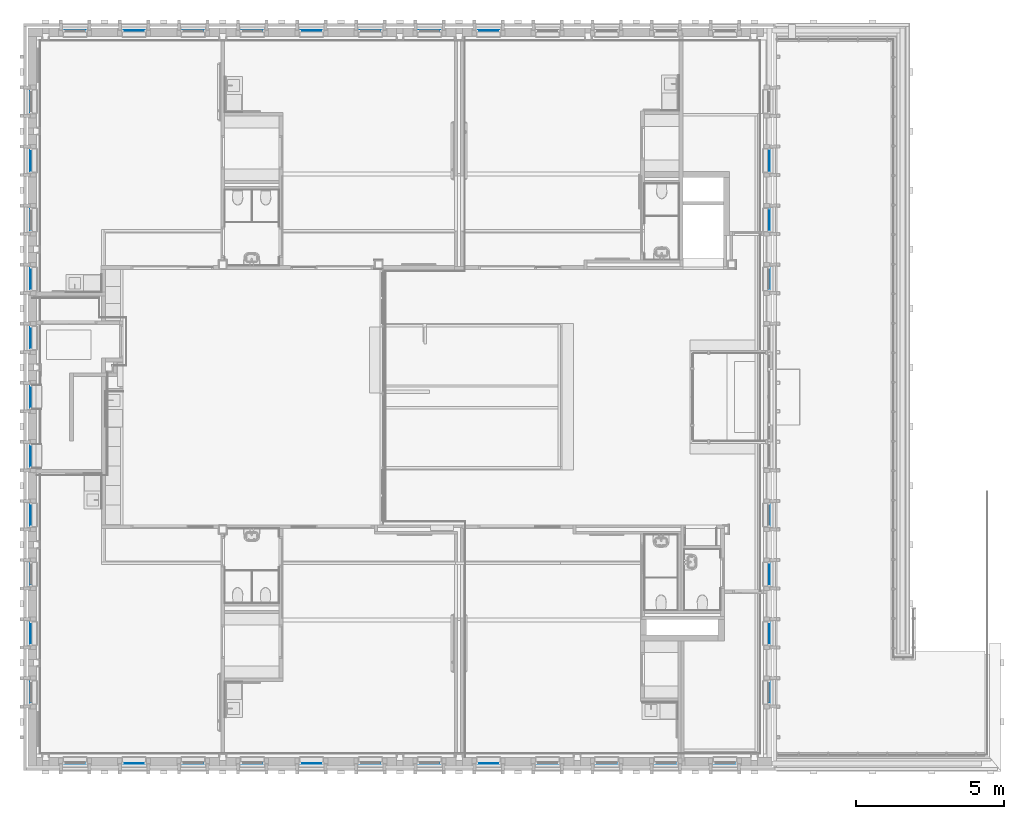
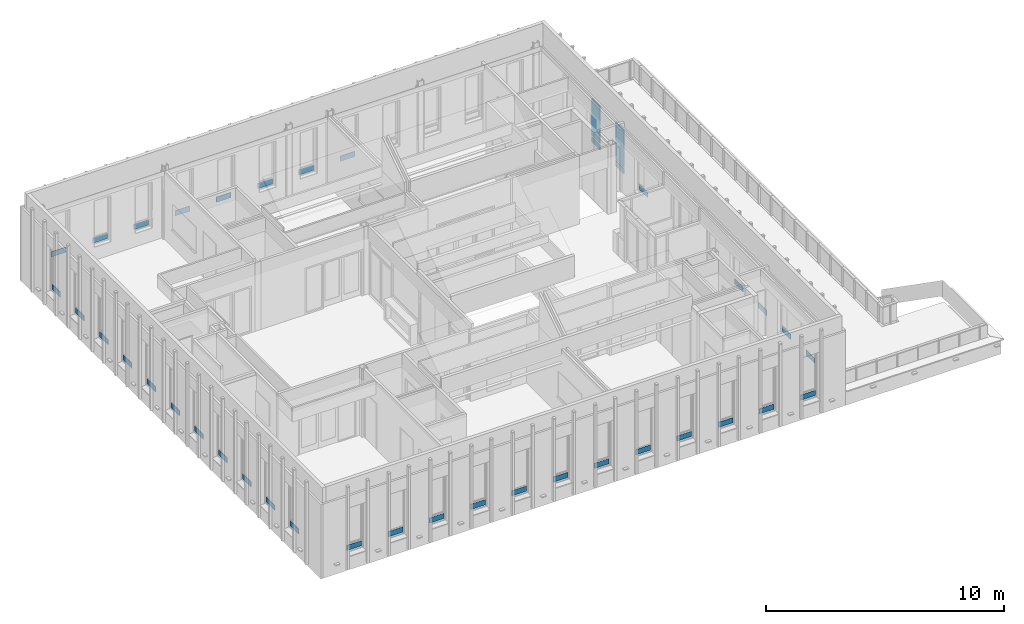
# One storey, part 22 of 118: 40 plates, 38 elements without a shape of their own.
"""IFC2X3 building model written with IfcOpenShell, lengths in millimetres."""

import ifcopenshell
import ifcopenshell.guid

model = None  # the IFC model being written
_history = None  # IfcOwnerHistory: only IFC2X3 demands one
_inside = {}  # id of a spatial element -> (the spatial element, [elements in it])
_under = {}  # id of a project, library or spatial element -> (it, [spatial elements below it])
_declared = {}  # id of a project -> (the project, [libraries it declares])
_typed = {}  # id of a type object -> (the type object, [elements of that type])
_made_of = {}  # id of a material, layer set ... -> (it, [elements and type objects made of it])


def new_model(schema):
    """Start an empty IFC model of exactly this schema.

    Asked for "IFC4X3", IfcOpenShell would pick the latest addendum, in which some entities
    have other attributes; the version numbers below select the first issue.
    IFC2X3 requires an IfcOwnerHistory on every rooted entity: one is made here for all.
    """
    global model, _history
    if schema == "IFC4X3":
        model = ifcopenshell.file(schema_version=(4, 3, 0, 0))
    else:
        model = ifcopenshell.file(schema=schema)
    _inside.clear()
    _under.clear()
    _declared.clear()
    _typed.clear()
    _made_of.clear()
    _history = None
    if model.schema == "IFC2X3":
        org = make("IfcOrganization", Name="unknown")
        user = make(
            "IfcPersonAndOrganization",
            ThePerson=make("IfcPerson", FamilyName="unknown"),
            TheOrganization=org,
        )
        app = make(
            "IfcApplication",
            ApplicationDeveloper=org,
            Version="unknown",
            ApplicationFullName="unknown",
            ApplicationIdentifier="unknown",
        )
        _history = make(
            "IfcOwnerHistory",
            OwningUser=user,
            OwningApplication=app,
            ChangeAction="ADDED",
            CreationDate=0,
        )
    return model


def make(cls, **values):
    """One entity of the class cls with the attributes given. An attribute that is None is left unset."""
    return model.create_entity(
        cls, **{name: value for name, value in values.items() if value is not None}
    )


def entity(cls, *values):
    """Any entity or typed value of the class cls, its attributes in the order of the schema. None: left unset."""
    e = model.create_entity(cls)
    for i, value in enumerate(values):
        if value is not None:
            e[i] = value
    return e


def rooted(cls, **values):
    """An entity with a GlobalId (a new one), such as an element, a storey or a relation."""
    return make(cls, GlobalId=ifcopenshell.guid.new(), OwnerHistory=_history, **values)


def si_unit(unit_type, name, prefix=None):
    """IfcSIUnit, for example si_unit("LENGTHUNIT", "METRE", prefix="MILLI")."""
    return make("IfcSIUnit", UnitType=unit_type, Prefix=prefix, Name=name)


def converted_unit(unit_type, name, factor, base, dimensions=None, offset=None):
    """IfcConversionBasedUnit, such as the inch: factor (a typed value) times the base unit."""
    return make(
        "IfcConversionBasedUnit"
        if offset is None
        else "IfcConversionBasedUnitWithOffset",
        ConversionOffset=offset,
        Dimensions=None
        if dimensions is None
        else entity("IfcDimensionalExponents", *dimensions),
        UnitType=unit_type,
        Name=name,
        ConversionFactor=make(
            "IfcMeasureWithUnit", ValueComponent=factor, UnitComponent=base
        ),
    )


def derived_unit(unit_type, elements):
    """IfcDerivedUnit: a product of units, each with its exponent."""
    return make(
        "IfcDerivedUnit",
        Elements=[
            make("IfcDerivedUnitElement", Unit=unit, Exponent=power)
            for unit, power in elements
        ],
        UnitType=unit_type,
    )


def assignment(units):
    """IfcUnitAssignment: the units of a project."""
    return None if units is None else make("IfcUnitAssignment", Units=units)


def point(xyz):
    """IfcCartesianPoint."""
    return None if xyz is None else make("IfcCartesianPoint", Coordinates=xyz)


def direction(xyz):
    """IfcDirection."""
    return None if xyz is None else make("IfcDirection", DirectionRatios=xyz)


def frame(location, z_axis=None, x_axis=None):
    """IfcAxis2Placement3D, a coordinate frame: its origin and axes. An axis left out is left unset."""
    return make(
        "IfcAxis2Placement3D",
        Location=point(location),
        Axis=direction(z_axis),
        RefDirection=direction(x_axis),
    )


def frame_2d(location, x_axis=None):
    """IfcAxis2Placement2D, a coordinate frame in the plane: its origin and x axis."""
    return make(
        "IfcAxis2Placement2D", Location=point(location), RefDirection=direction(x_axis)
    )


def origin():
    """The frame at (0, 0, 0) with its axes left unset."""
    return frame((0.0, 0.0, 0.0))


def origin_2d_with_axis():
    """The frame at (0, 0) in the plane with the x axis (1, 0) written out."""
    return frame_2d((0.0, 0.0), x_axis=(1.0, 0.0))


def place(relative_to, where):
    """IfcLocalPlacement: puts the frame where relative to a parent placement (None: the world)."""
    return make(
        "IfcLocalPlacement", PlacementRelTo=relative_to, RelativePlacement=where
    )


def context(
    kind, dimensions, precision=None, world=None, true_north=None, identifier=None
):
    """IfcGeometricRepresentationContext, for example the 3D "Model" context."""
    return make(
        "IfcGeometricRepresentationContext",
        ContextIdentifier=identifier,
        ContextType=kind,
        CoordinateSpaceDimension=dimensions,
        Precision=precision,
        WorldCoordinateSystem=world,
        TrueNorth=true_north,
    )


def subcontext(parent, identifier, kind, view, scale=None):
    """IfcGeometricRepresentationSubContext, for example "Body" below "Model"."""
    return make(
        "IfcGeometricRepresentationSubContext",
        ContextIdentifier=identifier,
        ContextType=kind,
        ParentContext=parent,
        TargetScale=scale,
        TargetView=view,
    )


def project(units=None, contexts=None):
    """IfcProject with its units and contexts."""
    return rooted(
        "IfcProject",
        Name="project",
        RepresentationContexts=contexts,
        UnitsInContext=assignment(units),
    )


def spatial(cls, under=None, at=None, **own):
    """A site, building, storey or space (cls), placed at a placement, below another one or the project."""
    s = rooted(cls, ObjectPlacement=at, **own)
    if under is not None:
        _under.setdefault(under.id(), (under, []))[1].append(s)
    return s


def profile(cls, at=None, kind="AREA", **sizes):
    """A parametric profile (cls). Its sizes go by their IFC names, for example OverallWidth=200.0."""
    return make(cls, ProfileType=kind, Position=at, **sizes)


def rectangle(**sizes):
    """IfcRectangleProfileDef."""
    return profile("IfcRectangleProfileDef", **sizes)


def extrude(swept, where, along, depth):
    """IfcExtrudedAreaSolid: the profile swept, set in the frame where, extruded along a direction by depth."""
    return make(
        "IfcExtrudedAreaSolid",
        SweptArea=swept,
        Position=where,
        ExtrudedDirection=direction(along),
        Depth=depth,
    )


def shape(context_of_items, identifier, shape_type, items):
    """IfcShapeRepresentation: the items that make up one representation, for example the "Body"."""
    return make(
        "IfcShapeRepresentation",
        ContextOfItems=context_of_items,
        RepresentationIdentifier=identifier,
        RepresentationType=shape_type,
        Items=items,
    )


def source(mapping_origin, context_of_items, identifier, shape_type, items):
    """IfcRepresentationMap: a shape defined once, which mapped items show again and again."""
    return make(
        "IfcRepresentationMap",
        MappingOrigin=mapping_origin,
        MappedRepresentation=shape(context_of_items, identifier, shape_type, items),
    )


def transform(
    local_origin,
    x_axis=None,
    y_axis=None,
    z_axis=None,
    scale=None,
    scale2=None,
    scale3=None,
    uniform=True,
):
    """IfcCartesianTransformationOperator3D, or its non-uniform kind. x_axis, y_axis, z_axis: its Axis1, 2, 3."""
    if uniform:
        return make(
            "IfcCartesianTransformationOperator3D",
            Axis1=direction(x_axis),
            Axis2=direction(y_axis),
            LocalOrigin=point(local_origin),
            Scale=scale,
            Axis3=direction(z_axis),
        )
    return make(
        "IfcCartesianTransformationOperator3DnonUniform",
        Axis1=direction(x_axis),
        Axis2=direction(y_axis),
        LocalOrigin=point(local_origin),
        Scale=scale,
        Axis3=direction(z_axis),
        Scale2=scale2,
        Scale3=scale3,
    )


def mapped(mapping_source, mapping_target):
    """IfcMappedItem: shows the shape of a source again, moved by a transform."""
    return make(
        "IfcMappedItem", MappingSource=mapping_source, MappingTarget=mapping_target
    )


def material(Name=None, Category=None):
    """IfcMaterial."""
    return make("IfcMaterial", Name=Name, Category=Category)


def made_of(thing, what):
    """Note that an element or type object is made of a material, layer set ...; save() writes the relation."""
    if what is not None:
        _made_of.setdefault(what.id(), (what, []))[1].append(thing)
    return thing


def type_object(cls, material=None, **own):
    """A type object (cls), such as IfcWallType, which elements share."""
    return made_of(rooted(cls, **own), material)


def type_shapes(of_type, sources):
    """Give a type object the sources (RepresentationMaps) that its elements show as mapped items."""
    of_type.RepresentationMaps = sources


def element(
    cls,
    number,
    at=None,
    inside=None,
    cuts=None,
    type_object=None,
    material=None,
    context=None,
    identifier="Body",
    shape_type=None,
    held_by="IfcProductDefinitionShape",
    body=None,
    shapes=None,
    **own,
):
    """One element of the class cls, such as IfcWall. Its Tag is "e" and its number.

    at: its placement. inside: the storey or other place that contains it. cuts: it is an
    opening in that element (IfcRelVoidsElement). A single representation is given by context,
    identifier, shape_type and body (its items); several are given by shapes. held_by: the class
    of the entity that holds the representations. save() writes the other relations.
    """
    e = rooted(cls, Tag="e%d" % number, ObjectPlacement=at, **own)
    if body is not None:
        shapes = [shape(context, identifier, shape_type, body)]
    if shapes is not None:
        e.Representation = make(held_by, Representations=shapes)
    if inside is not None:
        _inside.setdefault(inside.id(), (inside, []))[1].append(e)
    if cuts is not None:
        rooted(
            "IfcRelVoidsElement", RelatingBuildingElement=cuts, RelatedOpeningElement=e
        )
    if type_object is not None:
        _typed.setdefault(type_object.id(), (type_object, []))[1].append(e)
    return made_of(e, material)


def aggregate(whole, parts):
    """IfcRelAggregates: a whole, such as a stair, and the parts it consists of."""
    return rooted("IfcRelAggregates", RelatingObject=whole, RelatedObjects=parts)


def save(model, path):
    """Write the relations noted so far, then the file.

    IfcRelAggregates (storeys below a building ...), IfcRelContainedInSpatialStructure (elements
    in a storey), IfcRelDefinesByType, IfcRelAssociatesMaterial and IfcRelDeclares: one each for
    every whole, place, type object, material and project.
    """
    for whole, parts in _under.values():
        aggregate(whole, parts)
    for where, things in _inside.values():
        rooted(
            "IfcRelContainedInSpatialStructure",
            RelatedElements=things,
            RelatingStructure=where,
        )
    for kind, things in _typed.values():
        rooted("IfcRelDefinesByType", RelatedObjects=things, RelatingType=kind)
    for what, things in _made_of.values():
        rooted("IfcRelAssociatesMaterial", RelatedObjects=things, RelatingMaterial=what)
    for by, libraries in _declared.values():
        rooted("IfcRelDeclares", RelatingContext=by, RelatedDefinitions=libraries)
    model.write(path)


model = new_model("IFC2X3")

# Units and contexts
model_context = context("Model", 3, precision=0.01, world=origin(), true_north=direction((6.123031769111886e-17, 1.0)))
plan_context = context("Plan", 3, precision=0.01, world=origin(), true_north=direction((6.123031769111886e-17, 1.0)))
body_context = subcontext(model_context, "Body", "Model", "MODEL_VIEW")
ifc_project = project(units=[si_unit("LENGTHUNIT", "METRE", prefix="MILLI"), si_unit("AREAUNIT", "SQUARE_METRE"), si_unit("VOLUMEUNIT", "CUBIC_METRE"), converted_unit("PLANEANGLEUNIT", "DEGREE", entity("IfcRatioMeasure", 0.017453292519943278), si_unit("PLANEANGLEUNIT", "RADIAN"), dimensions=[0, 0, 0, 0, 0, 0, 0]), si_unit("MASSUNIT", "GRAM", prefix="KILO"), derived_unit("MASSDENSITYUNIT", [(si_unit("MASSUNIT", "GRAM", prefix="KILO"), 1), (si_unit("LENGTHUNIT", "METRE"), -3)]), derived_unit("IONCONCENTRATIONUNIT", [(si_unit("MASSUNIT", "GRAM", prefix="KILO"), 1), (si_unit("LENGTHUNIT", "METRE"), -3)]), derived_unit("MOMENTOFINERTIAUNIT", [(si_unit("LENGTHUNIT", "METRE"), 4)]), si_unit("TIMEUNIT", "SECOND"), si_unit("FREQUENCYUNIT", "HERTZ"), si_unit("THERMODYNAMICTEMPERATUREUNIT", "DEGREE_CELSIUS"), derived_unit("THERMALTRANSMITTANCEUNIT", [(si_unit("MASSUNIT", "GRAM", prefix="KILO"), 1), (si_unit("THERMODYNAMICTEMPERATUREUNIT", "KELVIN"), -1), (si_unit("TIMEUNIT", "SECOND"), -3)]), derived_unit("THERMALCONDUCTANCEUNIT", [(si_unit("MASSUNIT", "GRAM", prefix="KILO"), 1), (si_unit("THERMODYNAMICTEMPERATUREUNIT", "KELVIN"), -1), (si_unit("TIMEUNIT", "SECOND"), -3), (si_unit("LENGTHUNIT", "METRE"), 1)]), derived_unit("VOLUMETRICFLOWRATEUNIT", [(si_unit("LENGTHUNIT", "METRE"), 3), (si_unit("TIMEUNIT", "SECOND"), -1)]), derived_unit("MASSFLOWRATEUNIT", [(si_unit("MASSUNIT", "GRAM", prefix="KILO"), 1), (si_unit("TIMEUNIT", "SECOND"), -1)]), derived_unit("ROTATIONALFREQUENCYUNIT", [(si_unit("TIMEUNIT", "SECOND"), -1)]), si_unit("ELECTRICCURRENTUNIT", "AMPERE"), si_unit("ELECTRICVOLTAGEUNIT", "VOLT"), si_unit("POWERUNIT", "WATT"), si_unit("FORCEUNIT", "NEWTON", prefix="KILO"), si_unit("ILLUMINANCEUNIT", "LUX"), si_unit("LUMINOUSFLUXUNIT", "LUMEN"), si_unit("LUMINOUSINTENSITYUNIT", "CANDELA"), derived_unit("USERDEFINED", [(si_unit("MASSUNIT", "GRAM", prefix="KILO"), -1), (si_unit("LENGTHUNIT", "METRE"), -2), (si_unit("TIMEUNIT", "SECOND"), 3), (si_unit("LUMINOUSFLUXUNIT", "LUMEN"), 1)]), derived_unit("USERDEFINED", [(si_unit("MASSUNIT", "GRAM", prefix="KILO"), 1), (si_unit("TIMEUNIT", "SECOND"), -3), (si_unit("LENGTHUNIT", "METRE"), 3), (si_unit("ELECTRICCURRENTUNIT", "AMPERE"), -2)]), derived_unit("SOUNDPOWERUNIT", [(si_unit("MASSUNIT", "GRAM", prefix="KILO"), 1), (si_unit("TIMEUNIT", "SECOND"), -3), (si_unit("LENGTHUNIT", "METRE"), 2)]), derived_unit("SOUNDPRESSUREUNIT", [(si_unit("MASSUNIT", "GRAM", prefix="KILO"), 1), (si_unit("LENGTHUNIT", "METRE"), -1), (si_unit("TIMEUNIT", "SECOND"), -2)]), derived_unit("LINEARVELOCITYUNIT", [(si_unit("LENGTHUNIT", "METRE"), 1), (si_unit("TIMEUNIT", "SECOND"), -1)]), si_unit("PRESSUREUNIT", "PASCAL"), derived_unit("USERDEFINED", [(si_unit("MASSUNIT", "GRAM", prefix="KILO"), 1), (si_unit("LENGTHUNIT", "METRE"), -2), (si_unit("TIMEUNIT", "SECOND"), -2)]), derived_unit("LINEARFORCEUNIT", [(si_unit("MASSUNIT", "GRAM", prefix="KILO"), 1), (si_unit("TIMEUNIT", "SECOND"), -2)]), derived_unit("PLANARFORCEUNIT", [(si_unit("MASSUNIT", "GRAM", prefix="KILO"), 1), (si_unit("LENGTHUNIT", "METRE"), -1), (si_unit("TIMEUNIT", "SECOND"), -2)]), derived_unit("SPECIFICHEATCAPACITYUNIT", [(si_unit("THERMODYNAMICTEMPERATUREUNIT", "KELVIN"), -1), (si_unit("LENGTHUNIT", "METRE"), 2), (si_unit("TIMEUNIT", "SECOND"), -2)]), derived_unit("HEATINGVALUEUNIT", [(si_unit("LENGTHUNIT", "METRE"), 2), (si_unit("TIMEUNIT", "SECOND"), -2)]), derived_unit("VAPORPERMEABILITYUNIT", [(si_unit("LENGTHUNIT", "METRE"), -1), (si_unit("TIMEUNIT", "SECOND"), 1)]), derived_unit("DYNAMICVISCOSITYUNIT", [(si_unit("MASSUNIT", "GRAM", prefix="KILO"), 1), (si_unit("TIMEUNIT", "SECOND"), -1), (si_unit("LENGTHUNIT", "METRE"), -1)]), derived_unit("THERMALEXPANSIONCOEFFICIENTUNIT", [(si_unit("THERMODYNAMICTEMPERATUREUNIT", "KELVIN"), -1)]), derived_unit("MODULUSOFELASTICITYUNIT", [(si_unit("MASSUNIT", "GRAM", prefix="KILO"), 1), (si_unit("LENGTHUNIT", "METRE"), -1), (si_unit("TIMEUNIT", "SECOND"), -2)]), derived_unit("ISOTHERMALMOISTURECAPACITYUNIT", [(si_unit("LENGTHUNIT", "METRE"), 3), (si_unit("MASSUNIT", "GRAM", prefix="KILO"), -1)]), derived_unit("MOISTUREDIFFUSIVITYUNIT", [(si_unit("TIMEUNIT", "SECOND"), -1), (si_unit("LENGTHUNIT", "METRE"), 2)])], contexts=[model_context, plan_context])

# Site, building, storey
site_placement = place(None, origin())
site = spatial("IfcSite", under=ifc_project, at=site_placement, Name="Locatie", CompositionType="ELEMENT")
building_placement = place(site_placement, origin())
building = spatial("IfcBuilding", under=site, at=building_placement, Name="Bouwwerk", CompositionType="ELEMENT")
storey_placement = place(building_placement, frame((0.0, 0.0, 7800.0)))
storey = spatial("IfcBuildingStorey", under=building, at=storey_placement, Name="02 tweede verdieping", CompositionType="ELEMENT", Elevation=7800.000000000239)

# Curtain wall, plate
curtain_wall_type = type_object("IfcCurtainWallType", Name="Curtain Wall:NLRS_21_CW_Ontwerpkozijn_aluminium_RT72", PredefinedType="NOTDEFINED")
curtain_wall_1_placement = place(storey_placement, frame((0.0, 0.0, -7800.0)))
curtain_wall_1 = element("IfcCurtainWall", 1, at=curtain_wall_1_placement, inside=storey, type_object=curtain_wall_type, Name="Curtain Wall:NLRS_21_CW_Ontwerpkozijn_aluminium_RT72", ObjectType="Curtain Wall:NLRS_21_CW_Ontwerpkozijn_aluminium_RT72")
ifc_material = material(Name="ISR_Glas")
plate_type_1 = type_object("IfcPlateType", Name="System Panel:RT72_glas", PredefinedType="CURTAIN_PANEL", material=ifc_material)
shared_shape_1 = source(origin(), body_context, "Body", "SweptSolid", [
    extrude(rectangle(XDim=23.0, YDim=713.999999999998, at=origin_2d_with_axis()), frame((0.0, 53.499999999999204, 0.0), z_axis=(0.0, 0.0, 1.0), x_axis=(0.0, 1.0, 0.0)), (0.0, 0.0, 1.0), 267.000000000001),
])
type_shapes(plate_type_1, [shared_shape_1])
plate_1_placement = place(curtain_wall_1_placement, frame((25300.0, 9847.0, 8541.0), z_axis=(0.0, 0.0, 1.0), x_axis=(-1.0, 0.0, 0.0)))
plate_1 = element("IfcPlate", 2, at=plate_1_placement, type_object=plate_type_1, material=ifc_material, Name="System Panel:RT72_glas", ObjectType="System Panel:RT72_glas", context=body_context, shape_type="MappedRepresentation", body=[
    mapped(shared_shape_1, transform((0.0, 0.0, 0.0), scale=1.0)),
])
aggregate(curtain_wall_1, [plate_1])

curtain_wall_2_placement = place(storey_placement, frame((0.0, 0.0, -7800.0)))
curtain_wall_2 = element("IfcCurtainWall", 3, at=curtain_wall_2_placement, inside=storey, type_object=curtain_wall_type, Name="Curtain Wall:NLRS_21_CW_Ontwerpkozijn_aluminium_RT72", ObjectType="Curtain Wall:NLRS_21_CW_Ontwerpkozijn_aluminium_RT72")
plate_2_placement = place(curtain_wall_2_placement, frame((19300.0, 9847.0, 8541.0), z_axis=(0.0, 0.0, 1.0), x_axis=(-1.0, 0.0, 0.0)))
plate_2 = element("IfcPlate", 4, at=plate_2_placement, type_object=plate_type_1, material=ifc_material, Name="System Panel:RT72_glas", ObjectType="System Panel:RT72_glas", context=body_context, shape_type="MappedRepresentation", body=[
    mapped(shared_shape_1, transform((0.0, 0.0, 0.0), scale=1.0)),
])
aggregate(curtain_wall_2, [plate_2])

curtain_wall_3_placement = place(storey_placement, frame((0.0, 0.0, -7800.0)))
curtain_wall_3 = element("IfcCurtainWall", 5, at=curtain_wall_3_placement, inside=storey, type_object=curtain_wall_type, Name="Curtain Wall:NLRS_21_CW_Ontwerpkozijn_aluminium_RT72", ObjectType="Curtain Wall:NLRS_21_CW_Ontwerpkozijn_aluminium_RT72")
plate_3_placement = place(curtain_wall_3_placement, frame((13300.0, 9847.0, 8541.0), z_axis=(0.0, 0.0, 1.0), x_axis=(-1.0, 0.0, 0.0)))
plate_3 = element("IfcPlate", 6, at=plate_3_placement, type_object=plate_type_1, material=ifc_material, Name="System Panel:RT72_glas", ObjectType="System Panel:RT72_glas", context=body_context, shape_type="MappedRepresentation", body=[
    mapped(shared_shape_1, transform((0.0, 0.0, 0.0), scale=1.0)),
])
aggregate(curtain_wall_3, [plate_3])

curtain_wall_4_placement = place(storey_placement, frame((0.0, 0.0, -7800.0)))
curtain_wall_4 = element("IfcCurtainWall", 7, at=curtain_wall_4_placement, inside=storey, type_object=curtain_wall_type, Name="Curtain Wall:NLRS_21_CW_Ontwerpkozijn_aluminium_RT72", ObjectType="Curtain Wall:NLRS_21_CW_Ontwerpkozijn_aluminium_RT72")
plate_4_placement = place(curtain_wall_4_placement, frame((34753.0, 14200.0, 8541.0), z_axis=(0.0, 0.0, 1.0), x_axis=(0.0, -1.0, 0.0)))
plate_4 = element("IfcPlate", 8, at=plate_4_placement, type_object=plate_type_1, material=ifc_material, Name="System Panel:RT72_glas", ObjectType="System Panel:RT72_glas", context=body_context, shape_type="MappedRepresentation", body=[
    mapped(shared_shape_1, transform((0.0, 0.0, 0.0), scale=1.0)),
])
aggregate(curtain_wall_4, [plate_4])

curtain_wall_5_placement = place(storey_placement, frame((0.0, 0.0, -7800.0)))
curtain_wall_5 = element("IfcCurtainWall", 9, at=curtain_wall_5_placement, inside=storey, type_object=curtain_wall_type, Name="Curtain Wall:NLRS_21_CW_Ontwerpkozijn_aluminium_RT72", ObjectType="Curtain Wall:NLRS_21_CW_Ontwerpkozijn_aluminium_RT72")
plate_5_placement = place(curtain_wall_5_placement, frame((34753.0, 16200.0, 8541.0), z_axis=(0.0, 0.0, 1.0), x_axis=(0.0, -1.0, 0.0)))
plate_5 = element("IfcPlate", 10, at=plate_5_placement, type_object=plate_type_1, material=ifc_material, Name="System Panel:RT72_glas", ObjectType="System Panel:RT72_glas", context=body_context, shape_type="MappedRepresentation", body=[
    mapped(shared_shape_1, transform((0.0, 0.0, 0.0), scale=1.0)),
])
aggregate(curtain_wall_5, [plate_5])

curtain_wall_6_placement = place(storey_placement, frame((0.0, 0.0, -7800.0)))
curtain_wall_6 = element("IfcCurtainWall", 11, at=curtain_wall_6_placement, inside=storey, type_object=curtain_wall_type, Name="Curtain Wall:NLRS_21_CW_Ontwerpkozijn_aluminium_RT72", ObjectType="Curtain Wall:NLRS_21_CW_Ontwerpkozijn_aluminium_RT72")
plate_6_placement = place(curtain_wall_6_placement, frame((34753.0, 28200.0, 8541.0), z_axis=(0.0, 0.0, 1.0), x_axis=(0.0, -1.0, 0.0)))
plate_6 = element("IfcPlate", 12, at=plate_6_placement, type_object=plate_type_1, material=ifc_material, Name="System Panel:RT72_glas", ObjectType="System Panel:RT72_glas", context=body_context, shape_type="MappedRepresentation", body=[
    mapped(shared_shape_1, transform((0.0, 0.0, 0.0), scale=1.0)),
])

curtain_wall_7_placement = place(storey_placement, frame((0.0, 0.0, -7800.0)))
curtain_wall_7 = element("IfcCurtainWall", 13, at=curtain_wall_7_placement, inside=storey, type_object=curtain_wall_type, Name="Curtain Wall:NLRS_21_CW_Ontwerpkozijn_aluminium_RT72", ObjectType="Curtain Wall:NLRS_21_CW_Ontwerpkozijn_aluminium_RT72")
plate_7_placement = place(curtain_wall_7_placement, frame((34753.0, 30200.0, 8541.0), z_axis=(0.0, 0.0, 1.0), x_axis=(0.0, -1.0, 0.0)))
plate_7 = element("IfcPlate", 14, at=plate_7_placement, type_object=plate_type_1, material=ifc_material, Name="System Panel:RT72_glas", ObjectType="System Panel:RT72_glas", context=body_context, shape_type="MappedRepresentation", body=[
    mapped(shared_shape_1, transform((0.0, 0.0, 0.0), scale=1.0)),
])

curtain_wall_8_placement = place(storey_placement, frame((0.0, 0.0, -7800.0)))
curtain_wall_8 = element("IfcCurtainWall", 15, at=curtain_wall_8_placement, inside=storey, type_object=curtain_wall_type, Name="Curtain Wall:NLRS_21_CW_Ontwerpkozijn_aluminium_RT72", ObjectType="Curtain Wall:NLRS_21_CW_Ontwerpkozijn_aluminium_RT72")
plate_8_placement = place(curtain_wall_8_placement, frame((9847.0, 14200.0, 8541.0), z_axis=(0.0, 0.0, 1.0), x_axis=(0.0, 1.0, 0.0)))
plate_8 = element("IfcPlate", 16, at=plate_8_placement, type_object=plate_type_1, material=ifc_material, Name="System Panel:RT72_glas", ObjectType="System Panel:RT72_glas", context=body_context, shape_type="MappedRepresentation", body=[
    mapped(shared_shape_1, transform((0.0, 0.0, 0.0), scale=1.0)),
])
aggregate(curtain_wall_8, [plate_8])

curtain_wall_9_placement = place(storey_placement, frame((0.0, 0.0, -7800.0)))
curtain_wall_9 = element("IfcCurtainWall", 17, at=curtain_wall_9_placement, inside=storey, type_object=curtain_wall_type, Name="Curtain Wall:NLRS_21_CW_Ontwerpkozijn_aluminium_RT72", ObjectType="Curtain Wall:NLRS_21_CW_Ontwerpkozijn_aluminium_RT72")
plate_9_placement = place(curtain_wall_9_placement, frame((9847.0, 18200.0, 8541.0), z_axis=(0.0, 0.0, 1.0), x_axis=(0.0, 1.0, 0.0)))
plate_9 = element("IfcPlate", 18, at=plate_9_placement, type_object=plate_type_1, material=ifc_material, Name="System Panel:RT72_glas", ObjectType="System Panel:RT72_glas", context=body_context, shape_type="MappedRepresentation", body=[
    mapped(shared_shape_1, transform((0.0, 0.0, 0.0), scale=1.0)),
])
aggregate(curtain_wall_9, [plate_9])

curtain_wall_10_placement = place(storey_placement, frame((0.0, 0.0, -7800.0)))
curtain_wall_10 = element("IfcCurtainWall", 19, at=curtain_wall_10_placement, inside=storey, type_object=curtain_wall_type, Name="Curtain Wall:NLRS_21_CW_Ontwerpkozijn_aluminium_RT72", ObjectType="Curtain Wall:NLRS_21_CW_Ontwerpkozijn_aluminium_RT72")
plate_10_placement = place(curtain_wall_10_placement, frame((9847.0, 20200.0, 8541.0), z_axis=(0.0, 0.0, 1.0), x_axis=(0.0, 1.0, 0.0)))
plate_10 = element("IfcPlate", 20, at=plate_10_placement, type_object=plate_type_1, material=ifc_material, Name="System Panel:RT72_glas", ObjectType="System Panel:RT72_glas", context=body_context, shape_type="MappedRepresentation", body=[
    mapped(shared_shape_1, transform((0.0, 0.0, 0.0), scale=1.0)),
])
aggregate(curtain_wall_10, [plate_10])

curtain_wall_11_placement = place(storey_placement, frame((0.0, 0.0, -7800.0)))
curtain_wall_11 = element("IfcCurtainWall", 21, at=curtain_wall_11_placement, inside=storey, type_object=curtain_wall_type, Name="Curtain Wall:NLRS_21_CW_Ontwerpkozijn_aluminium_RT72", ObjectType="Curtain Wall:NLRS_21_CW_Ontwerpkozijn_aluminium_RT72")
plate_11_placement = place(curtain_wall_11_placement, frame((9847.0, 22200.0, 8541.0), z_axis=(0.0, 0.0, 1.0), x_axis=(0.0, 1.0, 0.0)))
plate_11 = element("IfcPlate", 22, at=plate_11_placement, type_object=plate_type_1, material=ifc_material, Name="System Panel:RT72_glas", ObjectType="System Panel:RT72_glas", context=body_context, shape_type="MappedRepresentation", body=[
    mapped(shared_shape_1, transform((0.0, 0.0, 0.0), scale=1.0)),
])
aggregate(curtain_wall_11, [plate_11])

curtain_wall_12_placement = place(storey_placement, frame((0.0, 0.0, -7800.0)))
curtain_wall_12 = element("IfcCurtainWall", 23, at=curtain_wall_12_placement, inside=storey, type_object=curtain_wall_type, Name="Curtain Wall:NLRS_21_CW_Ontwerpkozijn_aluminium_RT72", ObjectType="Curtain Wall:NLRS_21_CW_Ontwerpkozijn_aluminium_RT72")
plate_12_placement = place(curtain_wall_12_placement, frame((9847.0, 24200.0, 8541.0), z_axis=(0.0, 0.0, 1.0), x_axis=(0.0, 1.0, 0.0)))
plate_12 = element("IfcPlate", 24, at=plate_12_placement, type_object=plate_type_1, material=ifc_material, Name="System Panel:RT72_glas", ObjectType="System Panel:RT72_glas", context=body_context, shape_type="MappedRepresentation", body=[
    mapped(shared_shape_1, transform((0.0, 0.0, 0.0), scale=1.0)),
])
aggregate(curtain_wall_12, [plate_12])

curtain_wall_13_placement = place(storey_placement, frame((0.0, 0.0, -7800.0)))
curtain_wall_13 = element("IfcCurtainWall", 25, at=curtain_wall_13_placement, inside=storey, type_object=curtain_wall_type, Name="Curtain Wall:NLRS_21_CW_Ontwerpkozijn_aluminium_RT72", ObjectType="Curtain Wall:NLRS_21_CW_Ontwerpkozijn_aluminium_RT72")
plate_13_placement = place(curtain_wall_13_placement, frame((9847.0, 26200.0, 8541.0), z_axis=(0.0, 0.0, 1.0), x_axis=(0.0, 1.0, 0.0)))
plate_13 = element("IfcPlate", 26, at=plate_13_placement, type_object=plate_type_1, material=ifc_material, Name="System Panel:RT72_glas", ObjectType="System Panel:RT72_glas", context=body_context, shape_type="MappedRepresentation", body=[
    mapped(shared_shape_1, transform((0.0, 0.0, 0.0), scale=1.0)),
])
aggregate(curtain_wall_13, [plate_13])

curtain_wall_14_placement = place(storey_placement, frame((0.0, 0.0, -7800.0)))
curtain_wall_14 = element("IfcCurtainWall", 27, at=curtain_wall_14_placement, inside=storey, type_object=curtain_wall_type, Name="Curtain Wall:NLRS_21_CW_Ontwerpkozijn_aluminium_RT72", ObjectType="Curtain Wall:NLRS_21_CW_Ontwerpkozijn_aluminium_RT72")
plate_14_placement = place(curtain_wall_14_placement, frame((9847.0, 30200.0, 8541.0), z_axis=(0.0, 0.0, 1.0), x_axis=(0.0, 1.0, 0.0)))
plate_14 = element("IfcPlate", 28, at=plate_14_placement, type_object=plate_type_1, material=ifc_material, Name="System Panel:RT72_glas", ObjectType="System Panel:RT72_glas", context=body_context, shape_type="MappedRepresentation", body=[
    mapped(shared_shape_1, transform((0.0, 0.0, 0.0), scale=1.0)),
])
aggregate(curtain_wall_14, [plate_14])

curtain_wall_15_placement = place(storey_placement, frame((0.0, 0.0, -7800.0)))
curtain_wall_15 = element("IfcCurtainWall", 29, at=curtain_wall_15_placement, inside=storey, type_object=curtain_wall_type, Name="Curtain Wall:NLRS_21_CW_Ontwerpkozijn_aluminium_RT72", ObjectType="Curtain Wall:NLRS_21_CW_Ontwerpkozijn_aluminium_RT72")
plate_15_placement = place(curtain_wall_15_placement, frame((25300.0, 34553.0, 8541.0)))
plate_15 = element("IfcPlate", 30, at=plate_15_placement, type_object=plate_type_1, material=ifc_material, Name="System Panel:RT72_glas", ObjectType="System Panel:RT72_glas", context=body_context, shape_type="MappedRepresentation", body=[
    mapped(shared_shape_1, transform((0.0, 0.0, 0.0), scale=1.0)),
])
aggregate(curtain_wall_15, [plate_15])

curtain_wall_16_placement = place(storey_placement, frame((0.0, 0.0, -7800.0)))
curtain_wall_16 = element("IfcCurtainWall", 31, at=curtain_wall_16_placement, inside=storey, type_object=curtain_wall_type, Name="Curtain Wall:NLRS_21_CW_Ontwerpkozijn_aluminium_RT72", ObjectType="Curtain Wall:NLRS_21_CW_Ontwerpkozijn_aluminium_RT72")
plate_16_placement = place(curtain_wall_16_placement, frame((19300.0, 34553.0, 8541.0)))
plate_16 = element("IfcPlate", 32, at=plate_16_placement, type_object=plate_type_1, material=ifc_material, Name="System Panel:RT72_glas", ObjectType="System Panel:RT72_glas", context=body_context, shape_type="MappedRepresentation", body=[
    mapped(shared_shape_1, transform((0.0, 0.0, 0.0), scale=1.0)),
])
aggregate(curtain_wall_16, [plate_16])

curtain_wall_17_placement = place(storey_placement, frame((0.0, 0.0, -7800.0)))
curtain_wall_17 = element("IfcCurtainWall", 33, at=curtain_wall_17_placement, inside=storey, type_object=curtain_wall_type, Name="Curtain Wall:NLRS_21_CW_Ontwerpkozijn_aluminium_RT72", ObjectType="Curtain Wall:NLRS_21_CW_Ontwerpkozijn_aluminium_RT72")
plate_17_placement = place(curtain_wall_17_placement, frame((13300.0, 34553.0, 8541.0)))
plate_17 = element("IfcPlate", 34, at=plate_17_placement, type_object=plate_type_1, material=ifc_material, Name="System Panel:RT72_glas", ObjectType="System Panel:RT72_glas", context=body_context, shape_type="MappedRepresentation", body=[
    mapped(shared_shape_1, transform((0.0, 0.0, 0.0), scale=1.0)),
])
aggregate(curtain_wall_17, [plate_17])

curtain_wall_18_placement = place(storey_placement, frame((0.0, 0.0, -7800.0)))
curtain_wall_18 = element("IfcCurtainWall", 35, at=curtain_wall_18_placement, inside=storey, type_object=curtain_wall_type, Name="Curtain Wall:NLRS_21_CW_Ontwerpkozijn_aluminium_RT72", ObjectType="Curtain Wall:NLRS_21_CW_Ontwerpkozijn_aluminium_RT72")
plate_18_placement = place(curtain_wall_18_placement, frame((11300.0, 9847.0, 8541.0), z_axis=(0.0, 0.0, 1.0), x_axis=(-1.0, 0.0, 0.0)))
plate_18 = element("IfcPlate", 36, at=plate_18_placement, type_object=plate_type_1, material=ifc_material, Name="System Panel:RT72_glas", ObjectType="System Panel:RT72_glas", context=body_context, shape_type="MappedRepresentation", body=[
    mapped(shared_shape_1, transform((0.0, 0.0, 0.0), scale=1.0)),
])
aggregate(curtain_wall_18, [plate_18])

curtain_wall_19_placement = place(storey_placement, frame((0.0, 0.0, -7800.0)))
curtain_wall_19 = element("IfcCurtainWall", 37, at=curtain_wall_19_placement, inside=storey, type_object=curtain_wall_type, Name="Curtain Wall:NLRS_21_CW_Ontwerpkozijn_aluminium_RT72", ObjectType="Curtain Wall:NLRS_21_CW_Ontwerpkozijn_aluminium_RT72")
plate_19_placement = place(curtain_wall_19_placement, frame((23300.0, 9847.0, 8541.0), z_axis=(0.0, 0.0, 1.0), x_axis=(-1.0, 0.0, 0.0)))
plate_19 = element("IfcPlate", 38, at=plate_19_placement, type_object=plate_type_1, material=ifc_material, Name="System Panel:RT72_glas", ObjectType="System Panel:RT72_glas", context=body_context, shape_type="MappedRepresentation", body=[
    mapped(shared_shape_1, transform((0.0, 0.0, 0.0), scale=1.0)),
])
aggregate(curtain_wall_19, [plate_19])

curtain_wall_20_placement = place(storey_placement, frame((0.0, 0.0, -7800.0)))
curtain_wall_20 = element("IfcCurtainWall", 39, at=curtain_wall_20_placement, inside=storey, type_object=curtain_wall_type, Name="Curtain Wall:NLRS_21_CW_Ontwerpkozijn_aluminium_RT72", ObjectType="Curtain Wall:NLRS_21_CW_Ontwerpkozijn_aluminium_RT72")
plate_20_placement = place(curtain_wall_20_placement, frame((27300.0, 9847.0, 8541.0), z_axis=(0.0, 0.0, 1.0), x_axis=(-1.0, 0.0, 0.0)))
plate_20 = element("IfcPlate", 40, at=plate_20_placement, type_object=plate_type_1, material=ifc_material, Name="System Panel:RT72_glas", ObjectType="System Panel:RT72_glas", context=body_context, shape_type="MappedRepresentation", body=[
    mapped(shared_shape_1, transform((0.0, 0.0, 0.0), scale=1.0)),
])
aggregate(curtain_wall_20, [plate_20])

curtain_wall_21_placement = place(storey_placement, frame((0.0, 0.0, -7800.0)))
curtain_wall_21 = element("IfcCurtainWall", 41, at=curtain_wall_21_placement, inside=storey, type_object=curtain_wall_type, Name="Curtain Wall:NLRS_21_CW_Ontwerpkozijn_aluminium_RT72", ObjectType="Curtain Wall:NLRS_21_CW_Ontwerpkozijn_aluminium_RT72")
plate_21_placement = place(curtain_wall_21_placement, frame((29300.0, 9847.0, 8541.0), z_axis=(0.0, 0.0, 1.0), x_axis=(-1.0, 0.0, 0.0)))
plate_21 = element("IfcPlate", 42, at=plate_21_placement, type_object=plate_type_1, material=ifc_material, Name="System Panel:RT72_glas", ObjectType="System Panel:RT72_glas", context=body_context, shape_type="MappedRepresentation", body=[
    mapped(shared_shape_1, transform((0.0, 0.0, 0.0), scale=1.0)),
])
aggregate(curtain_wall_21, [plate_21])

curtain_wall_22_placement = place(storey_placement, frame((0.0, 0.0, -7800.0)))
curtain_wall_22 = element("IfcCurtainWall", 43, at=curtain_wall_22_placement, inside=storey, type_object=curtain_wall_type, Name="Curtain Wall:NLRS_21_CW_Ontwerpkozijn_aluminium_RT72", ObjectType="Curtain Wall:NLRS_21_CW_Ontwerpkozijn_aluminium_RT72")
plate_22_placement = place(curtain_wall_22_placement, frame((33300.0, 9847.0, 8541.0), z_axis=(0.0, 0.0, 1.0), x_axis=(-1.0, 0.0, 0.0)))
plate_22 = element("IfcPlate", 44, at=plate_22_placement, type_object=plate_type_1, material=ifc_material, Name="System Panel:RT72_glas", ObjectType="System Panel:RT72_glas", context=body_context, shape_type="MappedRepresentation", body=[
    mapped(shared_shape_1, transform((0.0, 0.0, 0.0), scale=1.0)),
])
aggregate(curtain_wall_22, [plate_22])

curtain_wall_23_placement = place(storey_placement, frame((0.0, 0.0, -7800.0)))
curtain_wall_23 = element("IfcCurtainWall", 45, at=curtain_wall_23_placement, inside=storey, type_object=curtain_wall_type, Name="Curtain Wall:NLRS_21_CW_Ontwerpkozijn_aluminium_RT72", ObjectType="Curtain Wall:NLRS_21_CW_Ontwerpkozijn_aluminium_RT72")
plate_23_placement = place(curtain_wall_23_placement, frame((17300.0, 9847.0, 8541.0), z_axis=(0.0, 0.0, 1.0), x_axis=(-1.0, 0.0, 0.0)))
plate_23 = element("IfcPlate", 46, at=plate_23_placement, type_object=plate_type_1, material=ifc_material, Name="System Panel:RT72_glas", ObjectType="System Panel:RT72_glas", context=body_context, shape_type="MappedRepresentation", body=[
    mapped(shared_shape_1, transform((0.0, 0.0, 0.0), scale=1.0)),
])
aggregate(curtain_wall_23, [plate_23])

curtain_wall_24_placement = place(storey_placement, frame((0.0, 0.0, -7800.0)))
curtain_wall_24 = element("IfcCurtainWall", 47, at=curtain_wall_24_placement, inside=storey, type_object=curtain_wall_type, Name="Curtain Wall:NLRS_21_CW_Ontwerpkozijn_aluminium_RT72", ObjectType="Curtain Wall:NLRS_21_CW_Ontwerpkozijn_aluminium_RT72")
plate_24_placement = place(curtain_wall_24_placement, frame((21300.0, 9847.0, 8541.0), z_axis=(0.0, 0.0, 1.0), x_axis=(-1.0, 0.0, 0.0)))
plate_24 = element("IfcPlate", 48, at=plate_24_placement, type_object=plate_type_1, material=ifc_material, Name="System Panel:RT72_glas", ObjectType="System Panel:RT72_glas", context=body_context, shape_type="MappedRepresentation", body=[
    mapped(shared_shape_1, transform((0.0, 0.0, 0.0), scale=1.0)),
])
aggregate(curtain_wall_24, [plate_24])

curtain_wall_25_placement = place(storey_placement, frame((0.0, 0.0, -7800.0)))
curtain_wall_25 = element("IfcCurtainWall", 49, at=curtain_wall_25_placement, inside=storey, type_object=curtain_wall_type, Name="Curtain Wall:NLRS_21_CW_Ontwerpkozijn_aluminium_RT72", ObjectType="Curtain Wall:NLRS_21_CW_Ontwerpkozijn_aluminium_RT72")
plate_25_placement = place(curtain_wall_25_placement, frame((15300.0, 9847.0, 8541.0), z_axis=(0.0, 0.0, 1.0), x_axis=(-1.0, 0.0, 0.0)))
plate_25 = element("IfcPlate", 50, at=plate_25_placement, type_object=plate_type_1, material=ifc_material, Name="System Panel:RT72_glas", ObjectType="System Panel:RT72_glas", context=body_context, shape_type="MappedRepresentation", body=[
    mapped(shared_shape_1, transform((0.0, 0.0, 0.0), scale=1.0)),
])
aggregate(curtain_wall_25, [plate_25])

curtain_wall_26_placement = place(storey_placement, frame((0.0, 0.0, -7800.0)))
curtain_wall_26 = element("IfcCurtainWall", 51, at=curtain_wall_26_placement, inside=storey, type_object=curtain_wall_type, Name="Curtain Wall:NLRS_21_CW_Ontwerpkozijn_aluminium_RT72", ObjectType="Curtain Wall:NLRS_21_CW_Ontwerpkozijn_aluminium_RT72")
plate_26_placement = place(curtain_wall_26_placement, frame((23300.0, 34553.0, 8541.0)))
plate_26 = element("IfcPlate", 52, at=plate_26_placement, type_object=plate_type_1, material=ifc_material, Name="System Panel:RT72_glas", ObjectType="System Panel:RT72_glas", context=body_context, shape_type="MappedRepresentation", body=[
    mapped(shared_shape_1, transform((0.0, 0.0, 0.0), scale=1.0)),
])
aggregate(curtain_wall_26, [plate_26])

curtain_wall_27_placement = place(storey_placement, frame((0.0, 0.0, -7800.0)))
curtain_wall_27 = element("IfcCurtainWall", 53, at=curtain_wall_27_placement, inside=storey, type_object=curtain_wall_type, Name="Curtain Wall:NLRS_21_CW_Ontwerpkozijn_aluminium_RT72", ObjectType="Curtain Wall:NLRS_21_CW_Ontwerpkozijn_aluminium_RT72")
plate_27_placement = place(curtain_wall_27_placement, frame((21300.0, 34553.0, 8541.0)))
plate_27 = element("IfcPlate", 54, at=plate_27_placement, type_object=plate_type_1, material=ifc_material, Name="System Panel:RT72_glas", ObjectType="System Panel:RT72_glas", context=body_context, shape_type="MappedRepresentation", body=[
    mapped(shared_shape_1, transform((0.0, 0.0, 0.0), scale=1.0)),
])
aggregate(curtain_wall_27, [plate_27])

curtain_wall_28_placement = place(storey_placement, frame((0.0, 0.0, -7800.0)))
curtain_wall_28 = element("IfcCurtainWall", 55, at=curtain_wall_28_placement, inside=storey, type_object=curtain_wall_type, Name="Curtain Wall:NLRS_21_CW_Ontwerpkozijn_aluminium_RT72", ObjectType="Curtain Wall:NLRS_21_CW_Ontwerpkozijn_aluminium_RT72")
plate_28_placement = place(curtain_wall_28_placement, frame((17300.0, 34553.0, 8541.0)))
plate_28 = element("IfcPlate", 56, at=plate_28_placement, type_object=plate_type_1, material=ifc_material, Name="System Panel:RT72_glas", ObjectType="System Panel:RT72_glas", context=body_context, shape_type="MappedRepresentation", body=[
    mapped(shared_shape_1, transform((0.0, 0.0, 0.0), scale=1.0)),
])
aggregate(curtain_wall_28, [plate_28])

curtain_wall_29_placement = place(storey_placement, frame((0.0, 0.0, -7800.0)))
curtain_wall_29 = element("IfcCurtainWall", 57, at=curtain_wall_29_placement, inside=storey, type_object=curtain_wall_type, Name="Curtain Wall:NLRS_21_CW_Ontwerpkozijn_aluminium_RT72", ObjectType="Curtain Wall:NLRS_21_CW_Ontwerpkozijn_aluminium_RT72")
plate_29_placement = place(curtain_wall_29_placement, frame((15300.0, 34553.0, 8541.0)))
plate_29 = element("IfcPlate", 58, at=plate_29_placement, type_object=plate_type_1, material=ifc_material, Name="System Panel:RT72_glas", ObjectType="System Panel:RT72_glas", context=body_context, shape_type="MappedRepresentation", body=[
    mapped(shared_shape_1, transform((0.0, 0.0, 0.0), scale=1.0)),
])
aggregate(curtain_wall_29, [plate_29])

curtain_wall_30_placement = place(storey_placement, frame((0.0, 0.0, -7800.0)))
curtain_wall_30 = element("IfcCurtainWall", 59, at=curtain_wall_30_placement, inside=storey, type_object=curtain_wall_type, Name="Curtain Wall:NLRS_21_CW_Ontwerpkozijn_aluminium_RT72", ObjectType="Curtain Wall:NLRS_21_CW_Ontwerpkozijn_aluminium_RT72")
plate_30_placement = place(curtain_wall_30_placement, frame((11300.0, 34553.0, 8541.0)))
plate_30 = element("IfcPlate", 60, at=plate_30_placement, type_object=plate_type_1, material=ifc_material, Name="System Panel:RT72_glas", ObjectType="System Panel:RT72_glas", context=body_context, shape_type="MappedRepresentation", body=[
    mapped(shared_shape_1, transform((0.0, 0.0, 0.0), scale=1.0)),
])
aggregate(curtain_wall_30, [plate_30])

curtain_wall_31_placement = place(storey_placement, frame((0.0, 0.0, -7800.0)))
curtain_wall_31 = element("IfcCurtainWall", 61, at=curtain_wall_31_placement, inside=storey, type_object=curtain_wall_type, Name="Curtain Wall:NLRS_21_CW_Ontwerpkozijn_aluminium_RT72", ObjectType="Curtain Wall:NLRS_21_CW_Ontwerpkozijn_aluminium_RT72")
plate_31_placement = place(curtain_wall_31_placement, frame((34753.0, 12200.0, 8541.0), z_axis=(0.0, 0.0, 1.0), x_axis=(0.0, -1.0, 0.0)))
plate_31 = element("IfcPlate", 62, at=plate_31_placement, type_object=plate_type_1, material=ifc_material, Name="System Panel:RT72_glas", ObjectType="System Panel:RT72_glas", context=body_context, shape_type="MappedRepresentation", body=[
    mapped(shared_shape_1, transform((0.0, 0.0, 0.0), scale=1.0)),
])
aggregate(curtain_wall_31, [plate_31])

curtain_wall_32_placement = place(storey_placement, frame((0.0, 0.0, -7800.0)))
curtain_wall_32 = element("IfcCurtainWall", 63, at=curtain_wall_32_placement, inside=storey, type_object=curtain_wall_type, Name="Curtain Wall:NLRS_21_CW_Ontwerpkozijn_aluminium_RT72", ObjectType="Curtain Wall:NLRS_21_CW_Ontwerpkozijn_aluminium_RT72")
plate_32_placement = place(curtain_wall_32_placement, frame((34753.0, 18200.0, 8541.0), z_axis=(0.0, 0.0, 1.0), x_axis=(0.0, -1.0, 0.0)))
plate_32 = element("IfcPlate", 64, at=plate_32_placement, type_object=plate_type_1, material=ifc_material, Name="System Panel:RT72_glas", ObjectType="System Panel:RT72_glas", context=body_context, shape_type="MappedRepresentation", body=[
    mapped(shared_shape_1, transform((0.0, 0.0, 0.0), scale=1.0)),
])
aggregate(curtain_wall_32, [plate_32])

curtain_wall_33_placement = place(storey_placement, frame((0.0, 0.0, -7800.0)))
curtain_wall_33 = element("IfcCurtainWall", 65, at=curtain_wall_33_placement, inside=storey, type_object=curtain_wall_type, Name="Curtain Wall:NLRS_21_CW_Ontwerpkozijn_aluminium_RT72", ObjectType="Curtain Wall:NLRS_21_CW_Ontwerpkozijn_aluminium_RT72")
plate_33_placement = place(curtain_wall_33_placement, frame((34753.0, 26200.0, 8541.0), z_axis=(0.0, 0.0, 1.0), x_axis=(0.0, -1.0, 0.0)))
plate_33 = element("IfcPlate", 66, at=plate_33_placement, type_object=plate_type_1, material=ifc_material, Name="System Panel:RT72_glas", ObjectType="System Panel:RT72_glas", context=body_context, shape_type="MappedRepresentation", body=[
    mapped(shared_shape_1, transform((0.0, 0.0, 0.0), scale=1.0)),
])
aggregate(curtain_wall_33, [plate_33])

curtain_wall_34_placement = place(storey_placement, frame((0.0, 0.0, -7800.0)))
curtain_wall_34 = element("IfcCurtainWall", 67, at=curtain_wall_34_placement, inside=storey, type_object=curtain_wall_type, Name="Curtain Wall:NLRS_21_CW_Ontwerpkozijn_aluminium_RT72", ObjectType="Curtain Wall:NLRS_21_CW_Ontwerpkozijn_aluminium_RT72")
plate_34_placement = place(curtain_wall_34_placement, frame((9847.0, 12200.0, 8541.0), z_axis=(0.0, 0.0, 1.0), x_axis=(0.0, 1.0, 0.0)))
plate_34 = element("IfcPlate", 68, at=plate_34_placement, type_object=plate_type_1, material=ifc_material, Name="System Panel:RT72_glas", ObjectType="System Panel:RT72_glas", context=body_context, shape_type="MappedRepresentation", body=[
    mapped(shared_shape_1, transform((0.0, 0.0, 0.0), scale=1.0)),
])
aggregate(curtain_wall_34, [plate_34])

curtain_wall_35_placement = place(storey_placement, frame((0.0, 0.0, -7800.0)))
curtain_wall_35 = element("IfcCurtainWall", 69, at=curtain_wall_35_placement, inside=storey, type_object=curtain_wall_type, Name="Curtain Wall:NLRS_21_CW_Ontwerpkozijn_aluminium_RT72", ObjectType="Curtain Wall:NLRS_21_CW_Ontwerpkozijn_aluminium_RT72")
plate_35_placement = place(curtain_wall_35_placement, frame((9847.0, 16200.0, 8541.0), z_axis=(0.0, 0.0, 1.0), x_axis=(0.0, 1.0, 0.0)))
plate_35 = element("IfcPlate", 70, at=plate_35_placement, type_object=plate_type_1, material=ifc_material, Name="System Panel:RT72_glas", ObjectType="System Panel:RT72_glas", context=body_context, shape_type="MappedRepresentation", body=[
    mapped(shared_shape_1, transform((0.0, 0.0, 0.0), scale=1.0)),
])
aggregate(curtain_wall_35, [plate_35])

curtain_wall_36_placement = place(storey_placement, frame((0.0, 0.0, -7800.0)))
curtain_wall_36 = element("IfcCurtainWall", 71, at=curtain_wall_36_placement, inside=storey, type_object=curtain_wall_type, Name="Curtain Wall:NLRS_21_CW_Ontwerpkozijn_aluminium_RT72", ObjectType="Curtain Wall:NLRS_21_CW_Ontwerpkozijn_aluminium_RT72")
plate_36_placement = place(curtain_wall_36_placement, frame((9847.0, 28200.0, 8541.0), z_axis=(0.0, 0.0, 1.0), x_axis=(0.0, 1.0, 0.0)))
plate_36 = element("IfcPlate", 72, at=plate_36_placement, type_object=plate_type_1, material=ifc_material, Name="System Panel:RT72_glas", ObjectType="System Panel:RT72_glas", context=body_context, shape_type="MappedRepresentation", body=[
    mapped(shared_shape_1, transform((0.0, 0.0, 0.0), scale=1.0)),
])
aggregate(curtain_wall_36, [plate_36])

curtain_wall_37_placement = place(storey_placement, frame((0.0, 0.0, -7800.0)))
curtain_wall_37 = element("IfcCurtainWall", 73, at=curtain_wall_37_placement, inside=storey, type_object=curtain_wall_type, Name="Curtain Wall:NLRS_21_CW_Ontwerpkozijn_aluminium_RT72", ObjectType="Curtain Wall:NLRS_21_CW_Ontwerpkozijn_aluminium_RT72")
plate_37_placement = place(curtain_wall_37_placement, frame((9847.0, 32200.0, 8541.0), z_axis=(0.0, 0.0, 1.0), x_axis=(0.0, 1.0, 0.0)))
plate_37 = element("IfcPlate", 74, at=plate_37_placement, type_object=plate_type_1, material=ifc_material, Name="System Panel:RT72_glas", ObjectType="System Panel:RT72_glas", context=body_context, shape_type="MappedRepresentation", body=[
    mapped(shared_shape_1, transform((0.0, 0.0, 0.0), scale=1.0)),
])
aggregate(curtain_wall_37, [plate_37])

curtain_wall_38_placement = place(storey_placement, frame((0.0, 0.0, -7800.0)))
curtain_wall_38 = element("IfcCurtainWall", 75, at=curtain_wall_38_placement, inside=storey, type_object=curtain_wall_type, Name="Curtain Wall:NLRS_21_CW_Ontwerpkozijn_aluminium_RT72", ObjectType="Curtain Wall:NLRS_21_CW_Ontwerpkozijn_aluminium_RT72")
plate_38_placement = place(curtain_wall_38_placement, frame((31300.0, 9847.0, 8541.0), z_axis=(0.0, 0.0, 1.0), x_axis=(-1.0, 0.0, 0.0)))
plate_38 = element("IfcPlate", 76, at=plate_38_placement, type_object=plate_type_1, material=ifc_material, Name="System Panel:RT72_glas", ObjectType="System Panel:RT72_glas", context=body_context, shape_type="MappedRepresentation", body=[
    mapped(shared_shape_1, transform((0.0, 0.0, 0.0), scale=1.0)),
])
aggregate(curtain_wall_38, [plate_38])

# Plate
plate_type_2 = type_object("IfcPlateType", Name="System Panel:RT72_glas", PredefinedType="CURTAIN_PANEL", material=ifc_material)
shared_shape_2 = source(origin(), body_context, "Body", "SweptSolid", [
    extrude(rectangle(XDim=23.0, YDim=713.999999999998, at=origin_2d_with_axis()), frame((0.0, 53.5, 0.0), z_axis=(0.0, 0.0, 1.0), x_axis=(0.0, 1.0, 0.0)), (0.0, 0.0, 1.0), 1918.999999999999),
])
type_shapes(plate_type_2, [shared_shape_2])
plate_39_placement = place(curtain_wall_6_placement, frame((34753.0, 28200.0, 8876.0), z_axis=(0.0, 0.0, 1.0), x_axis=(0.0, -1.0, 0.0)))
plate_39 = element("IfcPlate", 77, at=plate_39_placement, type_object=plate_type_2, material=ifc_material, Name="System Panel:RT72_glas", ObjectType="System Panel:RT72_glas", context=body_context, shape_type="MappedRepresentation", body=[
    mapped(shared_shape_2, transform((0.0, 0.0, 0.0), scale=1.0)),
])

aggregate(curtain_wall_6, [plate_6, plate_39])

plate_40_placement = place(curtain_wall_7_placement, frame((34753.0, 30200.0, 8876.0), z_axis=(0.0, 0.0, 1.0), x_axis=(0.0, -1.0, 0.0)))
plate_40 = element("IfcPlate", 78, at=plate_40_placement, type_object=plate_type_2, material=ifc_material, Name="System Panel:RT72_glas", ObjectType="System Panel:RT72_glas", context=body_context, shape_type="MappedRepresentation", body=[
    mapped(shared_shape_2, transform((0.0, 0.0, 0.0), scale=1.0)),
])

aggregate(curtain_wall_7, [plate_7, plate_40])

save(model, "model.ifc")
